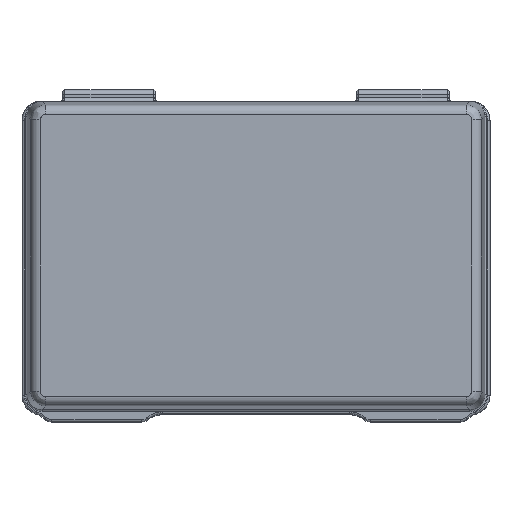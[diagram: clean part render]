
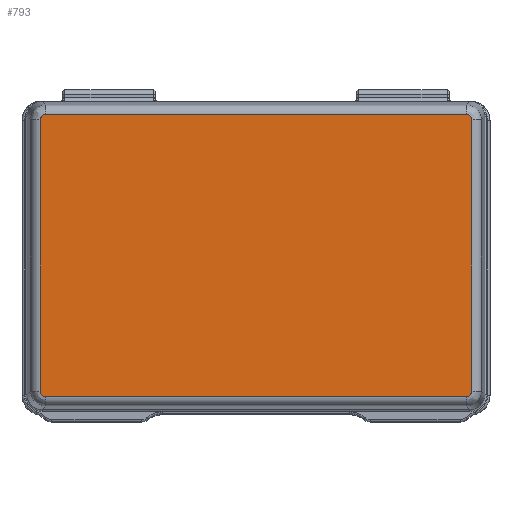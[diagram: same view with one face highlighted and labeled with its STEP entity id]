
A CAD part, top view. The second image highlights one B-rep face of the part: STEP entity #793.
In plain terms, the highlighted planar face has unit normal (0, 0, 1).
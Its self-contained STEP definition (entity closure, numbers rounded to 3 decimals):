
#350=FACE_OUTER_BOUND('',#1194,.T.);
#793=ADVANCED_FACE('',(#350),#1113,.F.);
#1113=PLANE('',#5396);
#1194=EDGE_LOOP('',(#2011,#2012,#2013,#2014,#2015,#2016,#2017,#2018));
#1519=ELLIPSE('',#5392,2.507,2.5);
#1520=ELLIPSE('',#5393,2.507,2.5);
#1521=ELLIPSE('',#5394,2.507,2.5);
#1522=ELLIPSE('',#5395,2.507,2.5);
#2011=ORIENTED_EDGE('',*,*,#4017,.T.);
#2012=ORIENTED_EDGE('',*,*,#4018,.T.);
#2013=ORIENTED_EDGE('',*,*,#4019,.T.);
#2014=ORIENTED_EDGE('',*,*,#4020,.T.);
#2015=ORIENTED_EDGE('',*,*,#4021,.T.);
#2016=ORIENTED_EDGE('',*,*,#4022,.T.);
#2017=ORIENTED_EDGE('',*,*,#4023,.T.);
#2018=ORIENTED_EDGE('',*,*,#4024,.T.);
#3533=VERTEX_POINT('',#7700);
#3534=VERTEX_POINT('',#7701);
#3535=VERTEX_POINT('',#7703);
#3536=VERTEX_POINT('',#7705);
#3537=VERTEX_POINT('',#7707);
#3538=VERTEX_POINT('',#7709);
#3539=VERTEX_POINT('',#7711);
#3540=VERTEX_POINT('',#7713);
#4017=EDGE_CURVE('',#3533,#3534,#4751,.T.);
#4018=EDGE_CURVE('',#3534,#3535,#1519,.T.);
#4019=EDGE_CURVE('',#3535,#3536,#4752,.T.);
#4020=EDGE_CURVE('',#3536,#3537,#1520,.T.);
#4021=EDGE_CURVE('',#3537,#3538,#4753,.T.);
#4022=EDGE_CURVE('',#3538,#3539,#1521,.T.);
#4023=EDGE_CURVE('',#3539,#3540,#4754,.T.);
#4024=EDGE_CURVE('',#3540,#3533,#1522,.T.);
#4751=LINE('',#7699,#5063);
#4752=LINE('',#7704,#5064);
#4753=LINE('',#7708,#5065);
#4754=LINE('',#7712,#5066);
#5063=VECTOR('',#6126,1.);
#5064=VECTOR('',#6129,1.);
#5065=VECTOR('',#6132,1.);
#5066=VECTOR('',#6135,1.);
#5392=AXIS2_PLACEMENT_3D('',#7702,#6127,#6128);
#5393=AXIS2_PLACEMENT_3D('',#7706,#6130,#6131);
#5394=AXIS2_PLACEMENT_3D('',#7710,#6133,#6134);
#5395=AXIS2_PLACEMENT_3D('',#7714,#6136,#6137);
#5396=AXIS2_PLACEMENT_3D('',#7715,#6138,#6139);
#6126=DIRECTION('',(0.,1.,0.));
#6127=DIRECTION('',(0.,0.,1.));
#6128=DIRECTION('',(0.707,0.707,0.));
#6129=DIRECTION('',(-1.,0.,0.));
#6130=DIRECTION('',(0.,0.,1.));
#6131=DIRECTION('',(-0.707,0.707,0.));
#6132=DIRECTION('',(0.,-1.,0.));
#6133=DIRECTION('',(0.,0.,1.));
#6134=DIRECTION('',(-0.707,-0.707,0.));
#6135=DIRECTION('',(1.,0.,0.));
#6136=DIRECTION('',(0.,0.,1.));
#6137=DIRECTION('',(0.707,-0.707,0.));
#6138=DIRECTION('',(0.,0.,-1.));
#6139=DIRECTION('',(1.,0.,0.));
#7699=CARTESIAN_POINT('',(105.528,-12.102,42.3));
#7700=CARTESIAN_POINT('',(105.528,-144.732,42.3));
#7701=CARTESIAN_POINT('',(105.528,-11.868,42.3));
#7702=CARTESIAN_POINT('',(103.025,-11.875,42.3));
#7703=CARTESIAN_POINT('',(103.032,-9.372,42.3));
#7704=CARTESIAN_POINT('',(-102.798,-9.372,42.3));
#7705=CARTESIAN_POINT('',(-103.032,-9.372,42.3));
#7706=CARTESIAN_POINT('',(-103.025,-11.875,42.3));
#7707=CARTESIAN_POINT('',(-105.528,-11.868,42.3));
#7708=CARTESIAN_POINT('',(-105.528,-144.498,42.3));
#7709=CARTESIAN_POINT('',(-105.528,-144.732,42.3));
#7710=CARTESIAN_POINT('',(-103.025,-144.725,42.3));
#7711=CARTESIAN_POINT('',(-103.032,-147.228,42.3));
#7712=CARTESIAN_POINT('',(102.798,-147.228,42.3));
#7713=CARTESIAN_POINT('',(103.032,-147.228,42.3));
#7714=CARTESIAN_POINT('',(103.025,-144.725,42.3));
#7715=CARTESIAN_POINT('',(0.,-2.7,42.3));
